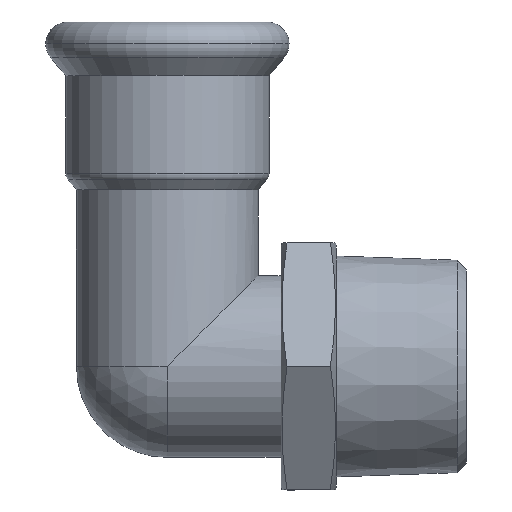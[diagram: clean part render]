
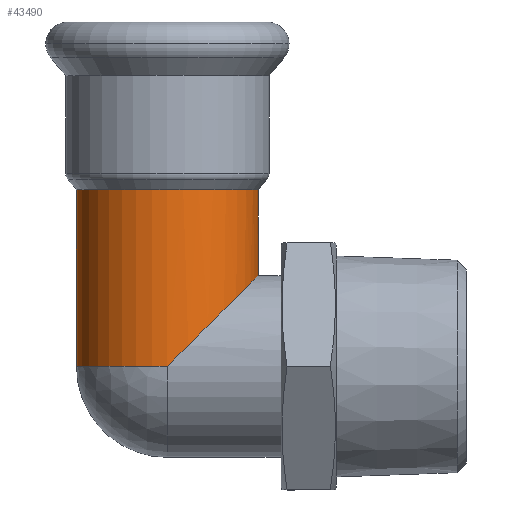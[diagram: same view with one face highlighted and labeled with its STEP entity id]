
A CAD part, top view. The second image highlights one B-rep face of the part: STEP entity #43490.
In plain terms, the highlighted cylindrical face has radius 14 mm (diameter 28 mm), a partial arc.
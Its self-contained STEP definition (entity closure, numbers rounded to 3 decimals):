
#1280=CARTESIAN_POINT('',(-390.306,41.873,0.));
#1290=VERTEX_POINT('',#1280);
#1470=CARTESIAN_POINT('',(-418.306,41.873,
0.));
#1480=VERTEX_POINT('',#1470);
#1510=CARTESIAN_POINT('',(-404.306,41.873,0.));
#1520=DIRECTION('',(0.,1.,0.));
#1530=DIRECTION('',(1.,0.,0.));
#1540=AXIS2_PLACEMENT_3D('',#1510,#1520,#1530);
#1550=CIRCLE('',#1540,14.);
#15490=CARTESIAN_POINT('',(-404.306,41.873,0.));
#15500=DIRECTION('',(0.,1.,0.));
#15510=DIRECTION('',(-1.,0.,0.));
#15520=AXIS2_PLACEMENT_3D('',#15490,#15500,#15510);
#15530=CYLINDRICAL_SURFACE('',#15520,14.);
#15540=CARTESIAN_POINT('',(-404.306,14.673,
0.));
#15550=DIRECTION('',(-0.707,0.707,
0.));
#15560=DIRECTION('',(0.707,0.707,
0.));
#15570=AXIS2_PLACEMENT_3D('',#15540,#15550,#15560);
#15580=ELLIPSE('',#15570,19.799,14.);
#15590=CARTESIAN_POINT('',(-390.306,28.673,
0.));
#15600=VERTEX_POINT('',#15590);
#15650=CARTESIAN_POINT('',(-390.306,41.873,
0.));
#15660=DIRECTION('',(0.,1.,0.));
#15670=VECTOR('',#15660,1.);
#15680=LINE('',#15650,#15670);
#15690=EDGE_CURVE('',#15600,#1290,#15680,.T.);
#15720=CARTESIAN_POINT('',(-418.306,41.873,0.));
#15730=DIRECTION('',(0.,1.,0.));
#15740=VECTOR('',#15730,1.);
#15750=LINE('',#15720,#15740);
#15760=CARTESIAN_POINT('',(-418.306,14.673,
0.));
#15770=VERTEX_POINT('',#15760);
#15780=EDGE_CURVE('',#15770,#1480,#15750,.T.);
#15800=CARTESIAN_POINT('',(-404.306,14.673,0.));
#15810=DIRECTION('',(0.,1.,0.));
#15820=DIRECTION('',(-1.,0.,0.));
#15830=AXIS2_PLACEMENT_3D('',#15800,#15810,#15820);
#15840=CIRCLE('',#15830,14.);
#16230=CARTESIAN_POINT('',(-404.306,14.673,14.));
#16240=VERTEX_POINT('',#16230);
#16270=EDGE_CURVE('',#16240,#15600,#15580,.T.);
#43280=EDGE_CURVE('',#1480,#1290,#1550,.T.);
#43410=ORIENTED_EDGE('',*,*,#43280,.F.);
#43420=ORIENTED_EDGE('',*,*,#15690,.T.);
#43430=ORIENTED_EDGE('',*,*,#16270,.T.);
#43440=EDGE_CURVE('',#15770,#16240,#15840,.T.);
#43450=ORIENTED_EDGE('',*,*,#43440,.T.);
#43460=ORIENTED_EDGE('',*,*,#15780,.F.);
#43470=EDGE_LOOP('',(#43460,#43450,#43430,#43420,#43410));
#43480=FACE_OUTER_BOUND('',#43470,.T.);
#43490=ADVANCED_FACE('',(#43480),#15530,.T.);
